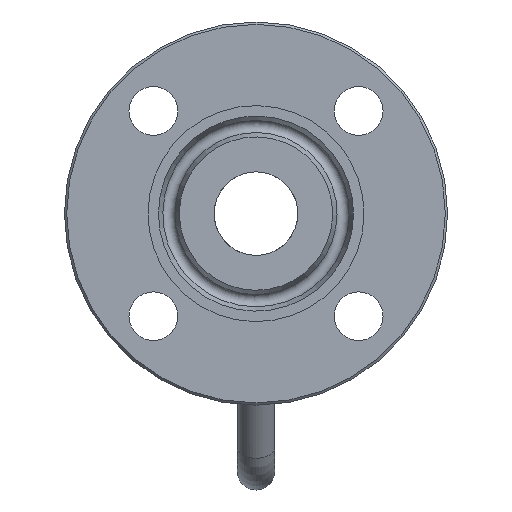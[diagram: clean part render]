
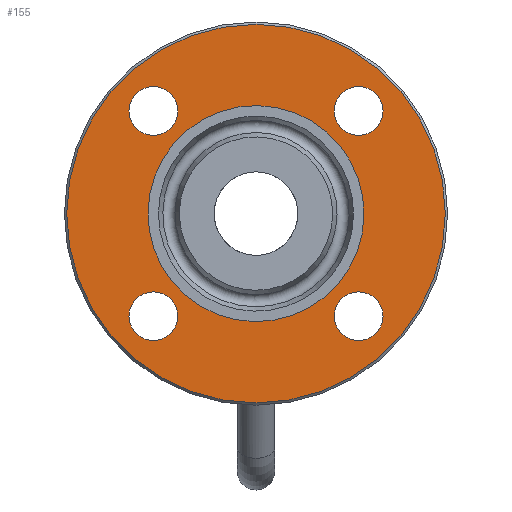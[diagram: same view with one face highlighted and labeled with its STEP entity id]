
A CAD part, left-side view. The second image highlights one B-rep face of the part: STEP entity #155.
In plain terms, the highlighted planar face has unit normal (-1, 0, 0).
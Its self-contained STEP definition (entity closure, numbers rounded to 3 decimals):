
#155=ADVANCED_FACE('',(#1333,#1335,#1337,#1339,#1341,#1343),#1345,.T.);
#1333=FACE_BOUND('',#1334,.T.);
#1334=EDGE_LOOP('',(#2289));
#1335=FACE_BOUND('',#1336,.T.);
#1336=EDGE_LOOP('',(#2290));
#1337=FACE_BOUND('',#1338,.T.);
#1338=EDGE_LOOP('',(#2291));
#1339=FACE_BOUND('',#1340,.T.);
#1340=EDGE_LOOP('',(#2292));
#1341=FACE_BOUND('',#1342,.T.);
#1342=EDGE_LOOP('',(#2293));
#1343=FACE_OUTER_BOUND('',#1344,.T.);
#1344=EDGE_LOOP('',(#2294));
#1345=PLANE('',#1346);
#1346=AXIS2_PLACEMENT_3D('',#1347,#1348,#1349);
#1347=CARTESIAN_POINT('',(-74.,0.,0.));
#1348=DIRECTION('',(-1.,0.,0.));
#1349=DIRECTION('',(0.,-1.,0.));
#2289=ORIENTED_EDGE('',*,*,#3347,.T.);
#2290=ORIENTED_EDGE('',*,*,#3348,.T.);
#2291=ORIENTED_EDGE('',*,*,#3350,.T.);
#2292=ORIENTED_EDGE('',*,*,#3352,.T.);
#2293=ORIENTED_EDGE('',*,*,#3363,.T.);
#2294=ORIENTED_EDGE('',*,*,#3364,.T.);
#3347=EDGE_CURVE('',#3696,#3696,#3698,.T.);
#3348=EDGE_CURVE('',#3699,#3699,#3700,.T.);
#3350=EDGE_CURVE('',#3702,#3702,#3703,.T.);
#3352=EDGE_CURVE('',#3705,#3705,#3706,.T.);
#3363=EDGE_CURVE('',#3724,#3724,#3725,.T.);
#3364=EDGE_CURVE('',#3726,#3726,#3727,.T.);
#3696=VERTEX_POINT('',#4798);
#3698=CIRCLE('',#4802,10.5);
#3699=VERTEX_POINT('',#4806);
#3700=CIRCLE('',#4807,10.5);
#3702=VERTEX_POINT('',#4814);
#3703=CIRCLE('',#4815,10.5);
#3705=VERTEX_POINT('',#4822);
#3706=CIRCLE('',#4823,10.5);
#3724=VERTEX_POINT('',#4869);
#3725=CIRCLE('',#4870,46.5);
#3726=VERTEX_POINT('',#4874);
#3727=CIRCLE('',#4875,81.5);
#4798=CARTESIAN_POINT('',(-74.,44.194,-54.694));
#4802=AXIS2_PLACEMENT_3D('',#4803,#4804,#4805);
#4803=CARTESIAN_POINT('',(-74.,44.194,-44.194));
#4804=DIRECTION('',(1.,0.,0.));
#4805=DIRECTION('',(0.,-0.,-1.));
#4806=CARTESIAN_POINT('',(-74.,54.694,44.194));
#4807=AXIS2_PLACEMENT_3D('',#4808,#4809,#4810);
#4808=CARTESIAN_POINT('',(-74.,44.194,44.194));
#4809=DIRECTION('',(1.,0.,0.));
#4810=DIRECTION('',(0.,1.,0.));
#4814=CARTESIAN_POINT('',(-74.,-44.194,54.694));
#4815=AXIS2_PLACEMENT_3D('',#4816,#4817,#4818);
#4816=CARTESIAN_POINT('',(-74.,-44.194,44.194));
#4817=DIRECTION('',(1.,0.,0.));
#4818=DIRECTION('',(0.,0.,1.));
#4822=CARTESIAN_POINT('',(-74.,-54.694,-44.194));
#4823=AXIS2_PLACEMENT_3D('',#4824,#4825,#4826);
#4824=CARTESIAN_POINT('',(-74.,-44.194,-44.194));
#4825=DIRECTION('',(1.,0.,0.));
#4826=DIRECTION('',(0.,-1.,0.));
#4869=CARTESIAN_POINT('',(-74.,-0.742,46.494));
#4870=AXIS2_PLACEMENT_3D('',#4871,#4872,#4873);
#4871=CARTESIAN_POINT('',(-74.,0.,0.));
#4872=DIRECTION('',(1.,0.,0.));
#4873=DIRECTION('',(0.,-0.016,1.));
#4874=CARTESIAN_POINT('',(-74.,-81.5,0.));
#4875=AXIS2_PLACEMENT_3D('',#4876,#4877,#4878);
#4876=CARTESIAN_POINT('',(-74.,0.,0.));
#4877=DIRECTION('',(-1.,0.,0.));
#4878=DIRECTION('',(0.,-1.,0.));
